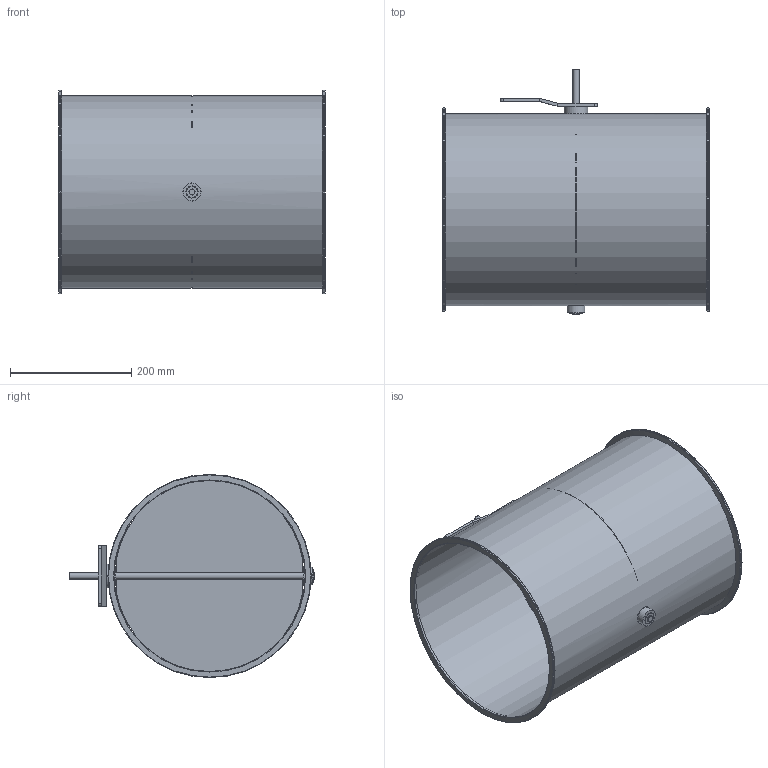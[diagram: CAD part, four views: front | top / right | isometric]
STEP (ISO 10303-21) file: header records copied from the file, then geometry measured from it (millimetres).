
FILE_DESCRIPTION(/* description */ (''),/* implementation_level */ '2;1');
FILE_NAME(/* name */ 'EA106-80B__315_L440_Belimo_Typ_SM.stp',/* time_stamp */ '2017-12-06T15:15:47+01:00',/* author */ (''),/* organization */ (''),/* preprocessor_version */ 'ST-DEVELOPER v11',/* originating_system */ 'SIEMENS UGS NX 6.0',/* authorisation */ '');
FILE_SCHEMA (('CONFIG_CONTROL_DESIGN'));
Length unit declared in the file: millimetre
Products named in the file (1): gars18E2j2d7
Bounding box: 440 x 405 x 335 mm (x, y, z)
Volume: 648704.6 mm3; surface area: 1122637.7 mm2
Topology: 8 solids, 8 shells, 76 faces, 158 edges, 100 vertices
Faces by surface type: plane 36, cylinder 32, torus 6, cone 2
Full cylindrical faces by diameter (mm): 4.1 x4, 10 x3, 19 x3, 19.85 x2, 20 x2, 29 x1, 30 x2, 39 x1, 315 x1, 316.6 x1, 335 x2
Entity records: 1960 total; most frequent: CARTESIAN_POINT 353, DIRECTION 334, ORIENTED_EDGE 236, AXIS2_PLACEMENT_3D 143, EDGE_LOOP 132, EDGE_CURVE 118, FACE_BOUND 102, VERTEX_POINT 90
